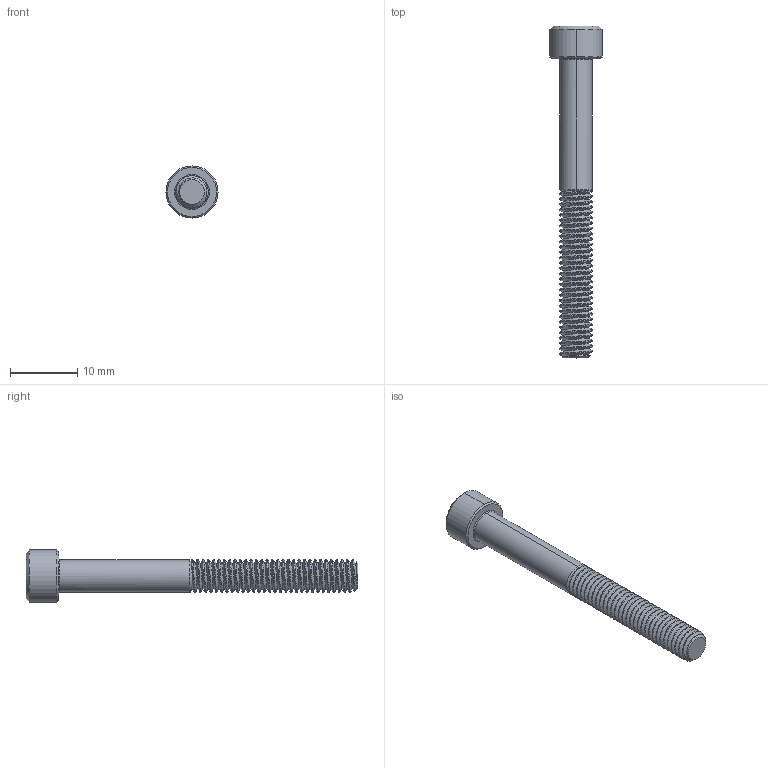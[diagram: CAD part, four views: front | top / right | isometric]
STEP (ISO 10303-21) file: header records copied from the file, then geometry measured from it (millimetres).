
FILE_DESCRIPTION (( 'STEP AP214' ), '1' );
FILE_NAME ('WCP-1549.STEP', '2024-06-14T23:26:12', ( '' ), ( '' ), 'SwSTEP 2.0', 'SolidWorks 2022', '' );
FILE_SCHEMA (( 'AUTOMOTIVE_DESIGN' ));
Length unit declared in the file: inch
Products named in the file (1): WCP-1549
Bounding box: 7.75 x 49.28 x 7.75 mm (x, y, z)
Volume: 917.8 mm3; surface area: 1104.6 mm2
Topology: 1 solids, 1 shells, 96 faces, 258 edges, 166 vertices
Faces by surface type: cylinder 65, cone 16, plane 10, bspline 3, torus 2
Entity records: 14053 total; most frequent: CARTESIAN_POINT 11958, ORIENTED_EDGE 516, DIRECTION 326, EDGE_CURVE 258, VERTEX_POINT 166, AXIS2_PLACEMENT_3D 120, EDGE_LOOP 98, ADVANCED_FACE 96
